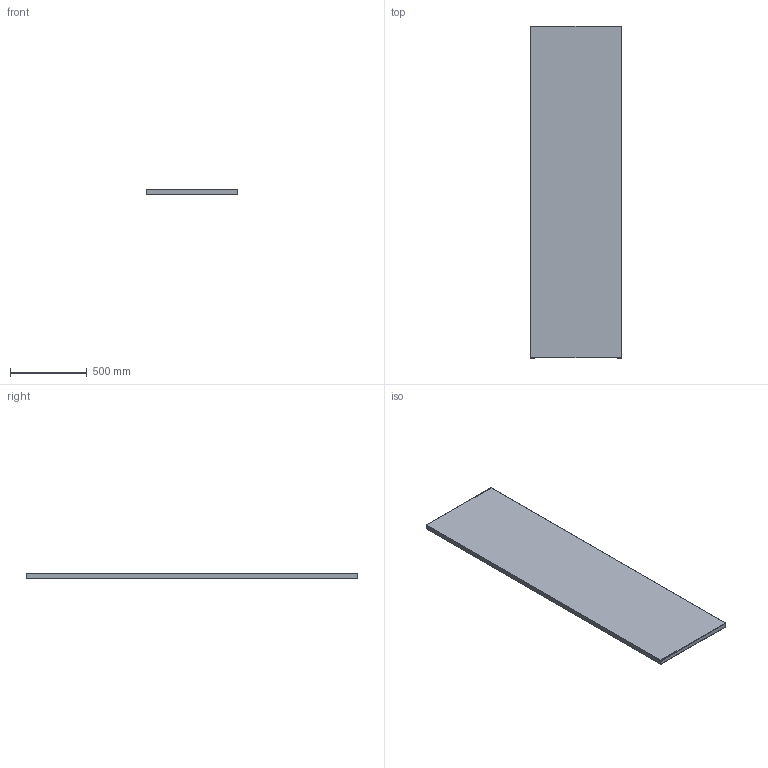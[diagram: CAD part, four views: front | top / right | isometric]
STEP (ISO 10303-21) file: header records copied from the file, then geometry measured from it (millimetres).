
FILE_DESCRIPTION((''),'2;1');
FILE_NAME('MODEL-463_ASM','2024-05-24T14:09:22',('joshi'),('SAGINAW CONTROL & ENGINEERING'),'CREO PARAMETRIC BY PTC INC, 2021284','CREO PARAMETRIC BY PTC INC, 2021284','');
FILE_SCHEMA(('AUTOMOTIVE_DESIGN { 1 0 10303 214 1 1 1 1 }'));
Length unit declared in the file: inch
Products named in the file (3): MODEL-463-END-PLT; 130515; MODEL-463_ASM
Assembly tree (2 placements, depth 2):
  MODEL-463_ASM
    MODEL-463-END-PLT
    130515
Bounding box: 596.9 x 2159 x 31.75 mm (x, y, z)
Volume: 2444749.8 mm3; surface area: 3218806.9 mm2
Topology: 1 solids, 1 shells, 258 faces, 704 edges, 448 vertices
Faces by surface type: cylinder 124, plane 114, bspline 20
Entity records: 11518 total; most frequent: CARTESIAN_POINT 2139, ORIENTED_EDGE 1408, DIRECTION 1374, PRESENTATION_STYLE_ASSIGNMENT 705, STYLED_ITEM 705, CURVE_STYLE 704, EDGE_CURVE 704, AXIS2_PLACEMENT_3D 467
